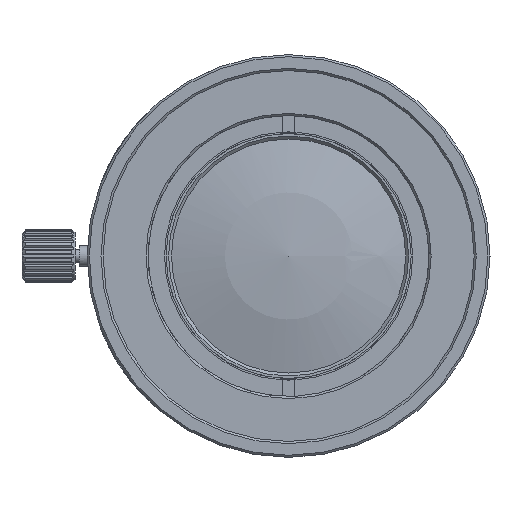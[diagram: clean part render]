
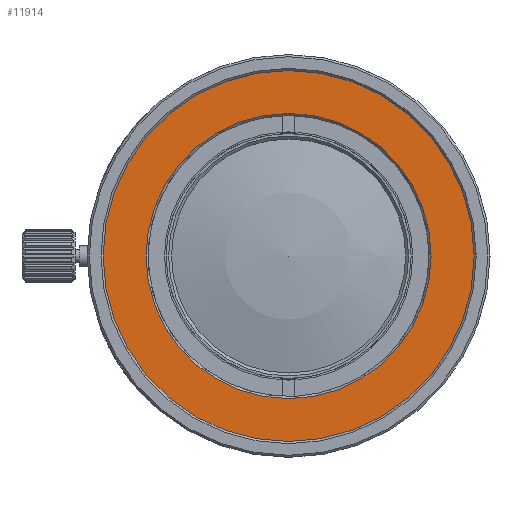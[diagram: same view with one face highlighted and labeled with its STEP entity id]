
A CAD part, left-side view. The second image highlights one B-rep face of the part: STEP entity #11914.
In plain terms, the highlighted planar face has unit normal (-1, 0, 0).
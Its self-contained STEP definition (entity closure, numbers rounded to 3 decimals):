
#1065=PLANE('',#12887);
#1590=CIRCLE('',#12886,17.85);
#1591=CIRCLE('',#12888,13.45);
#2841=ORIENTED_EDGE('',*,*,#5982,.F.);
#2842=ORIENTED_EDGE('',*,*,#5981,.T.);
#5981=EDGE_CURVE('',#7646,#7646,#1590,.T.);
#5982=EDGE_CURVE('',#7647,#7647,#1591,.T.);
#7646=VERTEX_POINT('',#18253);
#7647=VERTEX_POINT('',#18256);
#10176=EDGE_LOOP('',(#2841));
#10177=EDGE_LOOP('',(#2842));
#11030=FACE_BOUND('',#10176,.T.);
#11031=FACE_BOUND('',#10177,.T.);
#11914=ADVANCED_FACE('',(#11030,#11031),#1065,.F.);
#12886=AXIS2_PLACEMENT_3D('',#18252,#14592,#14593);
#12887=AXIS2_PLACEMENT_3D('',#18254,#14594,#14595);
#12888=AXIS2_PLACEMENT_3D('',#18255,#14596,#14597);
#14592=DIRECTION('',(-1.,0.,0.));
#14593=DIRECTION('',(0.,0.,1.));
#14594=DIRECTION('',(1.,0.,0.));
#14595=DIRECTION('',(0.,0.,1.));
#14596=DIRECTION('',(-1.,0.,0.));
#14597=DIRECTION('',(0.,0.,1.));
#18252=CARTESIAN_POINT('',(-72.46,0.,0.));
#18253=CARTESIAN_POINT('',(-72.46,0.,17.85));
#18254=CARTESIAN_POINT('',(-72.46,13.8,0.));
#18255=CARTESIAN_POINT('',(-72.46,0.,0.));
#18256=CARTESIAN_POINT('',(-72.46,0.,13.45));
